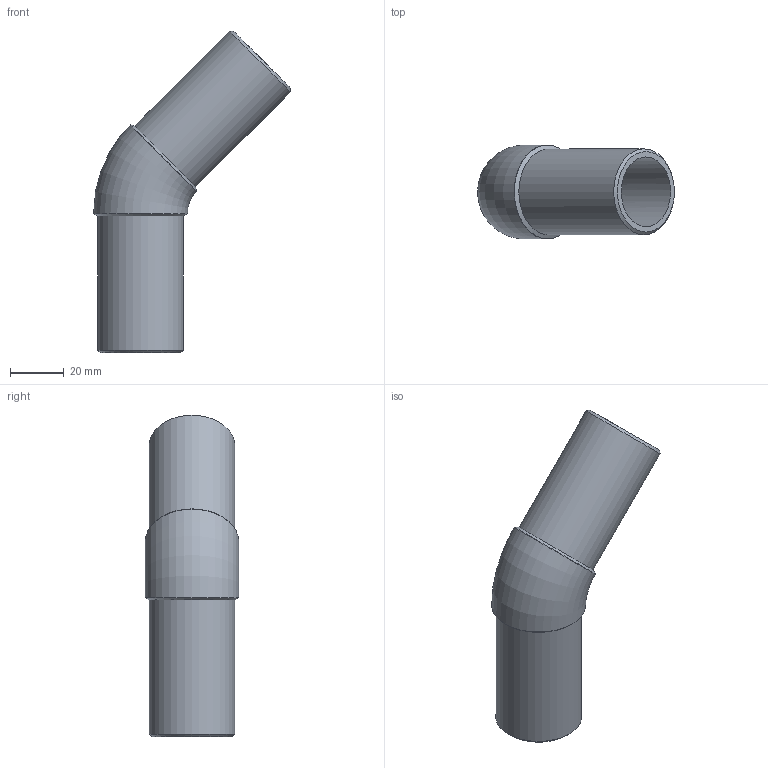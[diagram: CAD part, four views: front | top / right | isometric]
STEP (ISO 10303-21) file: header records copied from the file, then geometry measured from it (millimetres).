
FILE_DESCRIPTION(/* description */ ('Unknown'),/* implementation_level */ '2;1');
FILE_NAME(/* name */ 'G4P032C',/* time_stamp */ '2022-03-03T15:31:36+01:00',/* author */ ('Unknown'),/* organization */ ('Unknown'),/* preprocessor_version */ 'ST-DEVELOPER v18.1',/* originating_system */ 'Solid Edge',/* authorisation */ 'Unknown');
FILE_SCHEMA (('AUTOMOTIVE_DESIGN {1 0 10303 214 3 1 1}'));
Length unit declared in the file: millimetre
Products named in the file (1): G4P032C
Bounding box: 73.36 x 35 x 119.86 mm (x, y, z)
Volume: 38515.9 mm3; surface area: 23930 mm2
Topology: 1 solids, 1 shells, 14 faces, 34 edges, 22 vertices
Faces by surface type: cylinder 6, cone 4, plane 2, torus 2
Full cylindrical faces by diameter (mm): 26 x2, 32 x2, 35 x2
Entity records: 364 total; most frequent: CARTESIAN_POINT 64, DIRECTION 60, ORIENTED_EDGE 38, AXIS2_PLACEMENT_3D 30, EDGE_LOOP 27, FACE_BOUND 27, EDGE_CURVE 19, VERTEX_POINT 18
